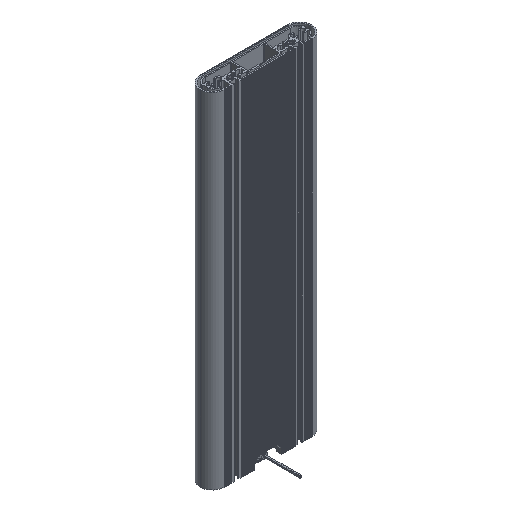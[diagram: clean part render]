
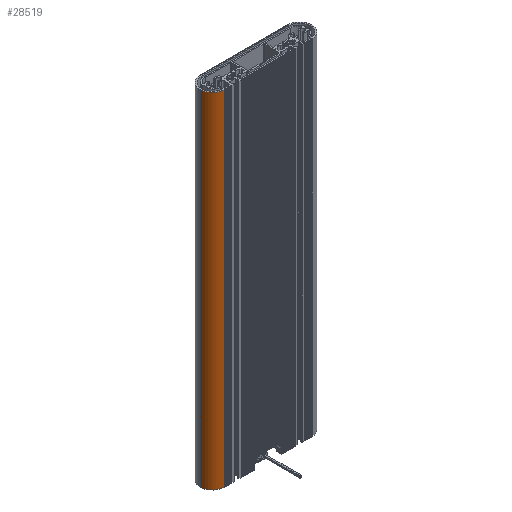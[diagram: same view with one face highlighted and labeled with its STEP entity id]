
A CAD part, isometric view. The second image highlights one B-rep face of the part: STEP entity #28519.
In plain terms, the highlighted cylindrical face has radius 21.247 mm (diameter 42.494 mm), a partial arc.
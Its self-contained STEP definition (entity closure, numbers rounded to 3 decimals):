
#812 = LINE ( 'NONE', #8286, #10153 ) ;
#2003 = CARTESIAN_POINT ( 'NONE',  ( -83.02, 14.924, -417.778 ) ) ;
#2171 = CARTESIAN_POINT ( 'NONE',  ( -83.02, 14.924, 182.222 ) ) ;
#2665 = CARTESIAN_POINT ( 'NONE',  ( -61.773, 14.924, -417.778 ) ) ;
#2938 = AXIS2_PLACEMENT_3D ( 'NONE', #19279, #43887, #22852 ) ;
#3494 = EDGE_CURVE ( 'NONE', #14480, #5693, #14049, .T. ) ;
#5693 = VERTEX_POINT ( 'NONE', #44308 ) ;
#6205 = DIRECTION ( 'NONE',  ( 1., 0., 0. ) ) ;
#8286 = CARTESIAN_POINT ( 'NONE',  ( -62.371, -6.314, -117.778 ) ) ;
#9815 = DIRECTION ( 'NONE',  ( 0., 0., -1. ) ) ;
#10153 = VECTOR ( 'NONE', #15364, 1000. ) ;
#11882 = EDGE_LOOP ( 'NONE', ( #23714, #14957, #31688, #45006 ) ) ;
#13695 = AXIS2_PLACEMENT_3D ( 'NONE', #19323, #40396, #22901 ) ;
#14049 = CIRCLE ( 'NONE', #14289, 21.247 ) ;
#14289 = AXIS2_PLACEMENT_3D ( 'NONE', #2665, #27252, #6205 ) ;
#14341 = EDGE_CURVE ( 'NONE', #14596, #5693, #812, .T. ) ;
#14480 = VERTEX_POINT ( 'NONE', #2003 ) ;
#14596 = VERTEX_POINT ( 'NONE', #18259 ) ;
#14957 = ORIENTED_EDGE ( 'NONE', *, *, #31213, .T. ) ;
#15364 = DIRECTION ( 'NONE',  ( 0., 0., -1. ) ) ;
#17030 = VERTEX_POINT ( 'NONE', #2171 ) ;
#18259 = CARTESIAN_POINT ( 'NONE',  ( -62.371, -6.314, 182.222 ) ) ;
#19279 = CARTESIAN_POINT ( 'NONE',  ( -61.773, 14.924, 182.222 ) ) ;
#19323 = CARTESIAN_POINT ( 'NONE',  ( -61.773, 14.924, 182.222 ) ) ;
#22852 = DIRECTION ( 'NONE',  ( 1., 0., 0. ) ) ;
#22901 = DIRECTION ( 'NONE',  ( -1., 0., 0. ) ) ;
#23714 = ORIENTED_EDGE ( 'NONE', *, *, #43075, .F. ) ;
#27252 = DIRECTION ( 'NONE',  ( 0., 0., 1. ) ) ;
#27341 = CARTESIAN_POINT ( 'NONE',  ( -83.02, 14.924, 182.222 ) ) ;
#28519 = ADVANCED_FACE ( 'NONE', ( #34973 ), #42117, .T. ) ;
#31213 = EDGE_CURVE ( 'NONE', #17030, #14480, #37511, .T. ) ;
#31688 = ORIENTED_EDGE ( 'NONE', *, *, #3494, .T. ) ;
#32644 = CIRCLE ( 'NONE', #2938, 21.247 ) ;
#34973 = FACE_OUTER_BOUND ( 'NONE', #11882, .T. ) ;
#35322 = VECTOR ( 'NONE', #9815, 1000. ) ;
#37511 = LINE ( 'NONE', #27341, #35322 ) ;
#40396 = DIRECTION ( 'NONE',  ( 0., 0., -1. ) ) ;
#42117 = CYLINDRICAL_SURFACE ( 'NONE', #13695, 21.247 ) ;
#43075 = EDGE_CURVE ( 'NONE', #17030, #14596, #32644, .T. ) ;
#43887 = DIRECTION ( 'NONE',  ( 0., 0., 1. ) ) ;
#44308 = CARTESIAN_POINT ( 'NONE',  ( -62.371, -6.314, -417.778 ) ) ;
#45006 = ORIENTED_EDGE ( 'NONE', *, *, #14341, .F. ) ;
